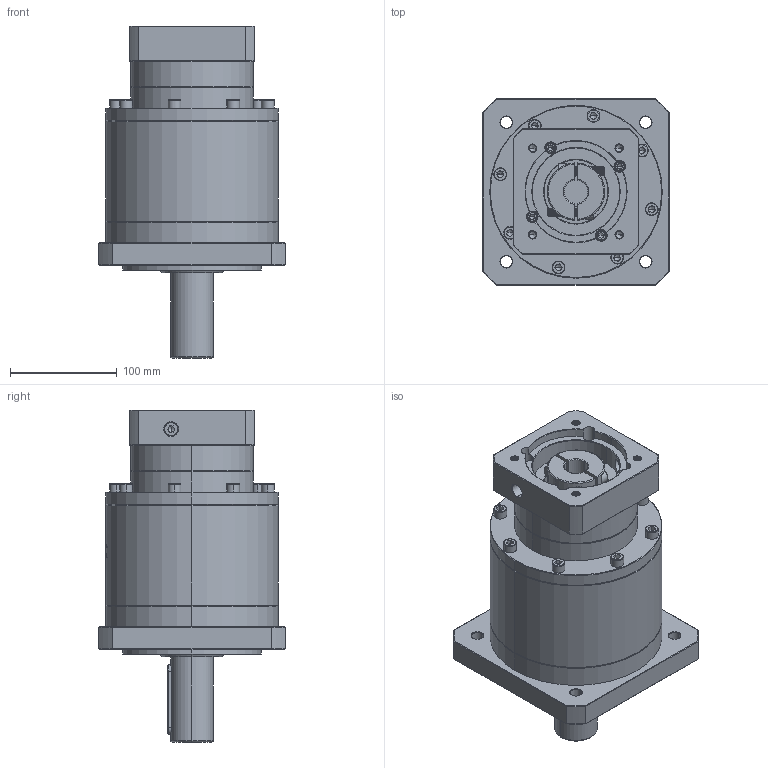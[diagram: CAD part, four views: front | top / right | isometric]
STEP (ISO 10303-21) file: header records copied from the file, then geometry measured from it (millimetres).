
FILE_DESCRIPTION (( 'STEP AP214' ), '1' );
FILE_NAME ('ZF160-D40-L3-22-95-115-M8.step', '2023-03-22T03:57:44', ( '' ), ( '' ), 'SwSTEP 2.0', 'SolidWorks 2016', '' );
FILE_SCHEMA (( 'AUTOMOTIVE_DESIGN' ));
Length unit declared in the file: millimetre
Products named in the file (1): ZF160-D40-L3-22-95-115-M8
Bounding box: 175 x 175 x 311.7 mm (x, y, z)
Volume: 4109514 mm3; surface area: 274385.9 mm2
Topology: 6 solids, 6 shells, 1872 faces, 4727 edges, 2977 vertices
Faces by surface type: plane 746, cylinder 491, cone 365, bspline 232, torus 38
Entity records: 99604 total; most frequent: CARTESIAN_POINT 36465, ORIENTED_EDGE 9346, DIRECTION 8163, EDGE_CURVE 4673, VERTEX_POINT 2977, AXIS2_PLACEMENT_3D 2830, LINE 2503, VECTOR 2503
